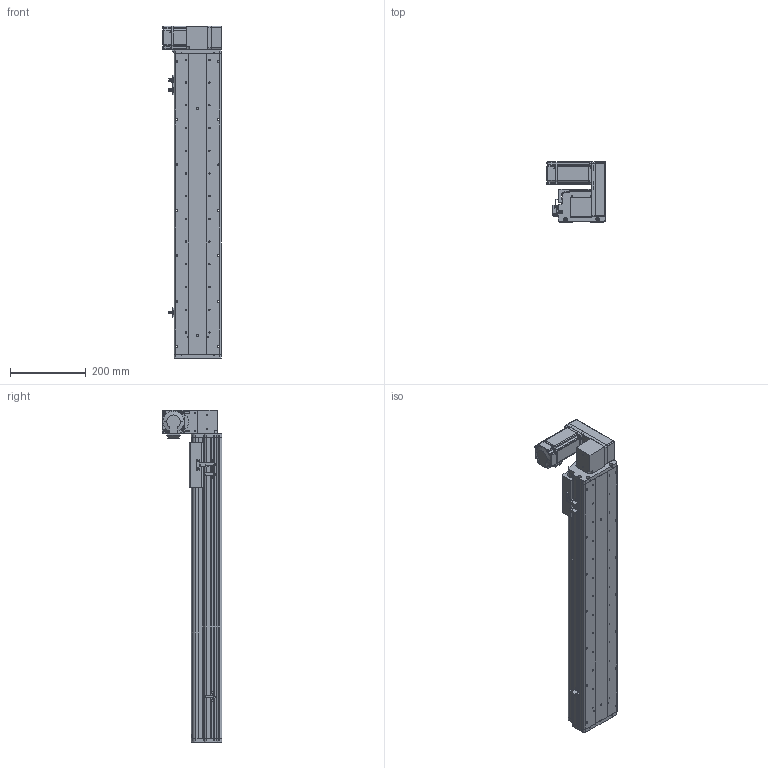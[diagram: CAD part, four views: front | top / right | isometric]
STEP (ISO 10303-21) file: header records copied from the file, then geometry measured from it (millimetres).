
FILE_DESCRIPTION (( 'STEP AP214' ), '1' );
FILE_NAME ('KSD125B-S600-MLU-CM.STEP', '2017-10-21T03:18:38', ( '微软用户' ), ( '微软中国' ), 'SwSTEP 2.0', 'SolidWorks 2014', '' );
FILE_SCHEMA (( 'AUTOMOTIVE_DESIGN' ));
Length unit declared in the file: millimetre
Products named in the file (17): 悵誘欶奻狟殏; 100宽马达安装板连板上下折丝杆同步带; HTPA30S3M150_A_H6_a佪裝蚚; HTPA30S3M150_A_H6_a萇儂蚚; 100宽马达安装板同步带左; KSD125模组600行程同步带-防尘盖; 125模组600行程同步带-底板; MHMD042G1CA_2_03; KSD125模组同步带-防撞垫2; 覜茼え68遵圉猾敕; U倰嫖萇假蚾璃; U倰嫖萇EEㄜSX672; KSD125模组同步带-防撞垫1; 前端板-125宽模组同步带; 125模组同步带-尾端板1; KSD125模组同步带-滑动座1; KSD125B-S600-MLU-CM
Assembly tree (20 placements, depth 2):
  KSD125B-S600-MLU-CM
    KSD125模组同步带-滑动座1
    125模组同步带-尾端板1
    前端板-125宽模组同步带
    KSD125模组同步带-防撞垫1
    U倰嫖萇EEㄜSX672  x3
    U倰嫖萇假蚾璃  x3
    覜茼え68遵圉猾敕
    KSD125模组同步带-防撞垫2
    MHMD042G1CA_2_03
    125模组600行程同步带-底板
    KSD125模组600行程同步带-防尘盖
    100宽马达安装板同步带左
    HTPA30S3M150_A_H6_a萇儂蚚
    HTPA30S3M150_A_H6_a佪裝蚚
    100宽马达安装板连板上下折丝杆同步带
    悵誘欶奻狟殏
Bounding box: 155 x 157.5 x 877 mm (x, y, z)
Volume: 2858026.2 mm3; surface area: 984064.2 mm2
Topology: 19 solids, 22 shells, 2257 faces, 6535 edges, 4318 vertices
Faces by surface type: cylinder 1408, plane 722, cone 105, bspline 22
Entity records: 80093 total; most frequent: CARTESIAN_POINT 15825, DIRECTION 12456, ORIENTED_EDGE 11590, EDGE_CURVE 5873, AXIS2_PLACEMENT_3D 4809, VERTEX_POINT 3910, LINE 2838, VECTOR 2838
